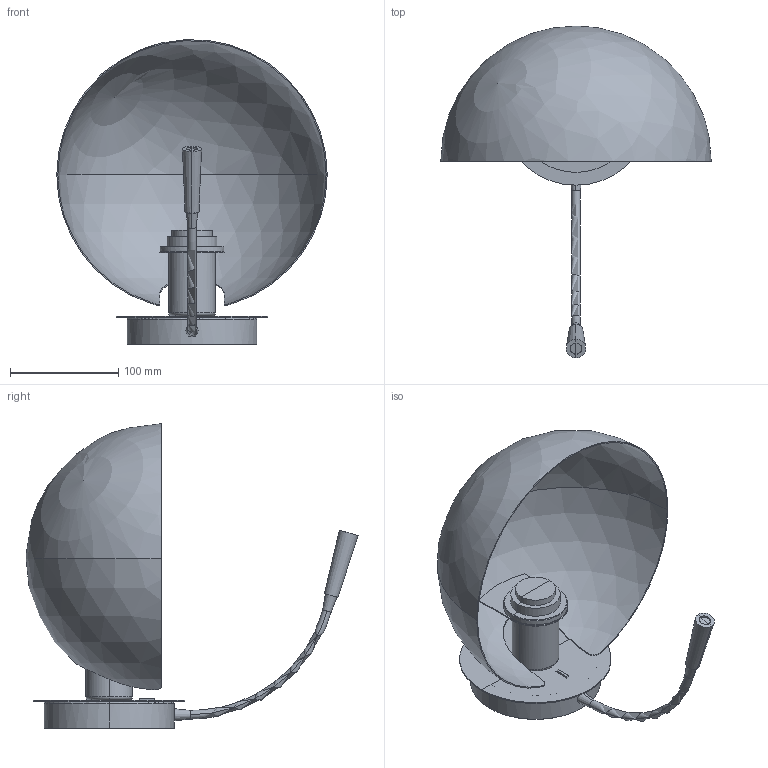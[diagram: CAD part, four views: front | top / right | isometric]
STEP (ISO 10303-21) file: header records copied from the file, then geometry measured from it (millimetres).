
FILE_DESCRIPTION(/* description */ (''),/* implementation_level */ '2;1');
FILE_NAME(/* name */ '20032-122.step',/* time_stamp */ '2024-06-12T10:54:42+02:00',/* author */ ('RenataManzini'),/* organization */ (''),/* preprocessor_version */ 'ST-DEVELOPER v20',/* originating_system */ 'AutoCAD Mechanical',/* authorisation */ '');
FILE_SCHEMA (('AUTOMOTIVE_DESIGN { 1 0 10303 214 3 1 1 }'));
Length unit declared in the file: millimetre
Products named in the file (3): Product; dominica_soporte - soporte-466978-_3D_; dominica_pantalla - Lamp Holder-466981-_3D_
Assembly tree (2 placements, depth 2):
  Product
    dominica_soporte - soporte-466978-_3D_
    dominica_pantalla - Lamp Holder-466981-_3D_
Bounding box: 249.8 x 306.66 x 281.3 mm (x, y, z)
Volume: 277353 mm3; surface area: 272794 mm2
Topology: 8 solids, 8 shells, 114 faces, 272 edges, 173 vertices
Faces by surface type: plane 59, cylinder 35, torus 10, cone 6, sphere 4
Entity records: 4074 total; most frequent: CARTESIAN_POINT 1409, DIRECTION 539, ORIENTED_EDGE 534, EDGE_CURVE 267, AXIS2_PLACEMENT_3D 208, VERTEX_POINT 168, LINE 123, VECTOR 123
